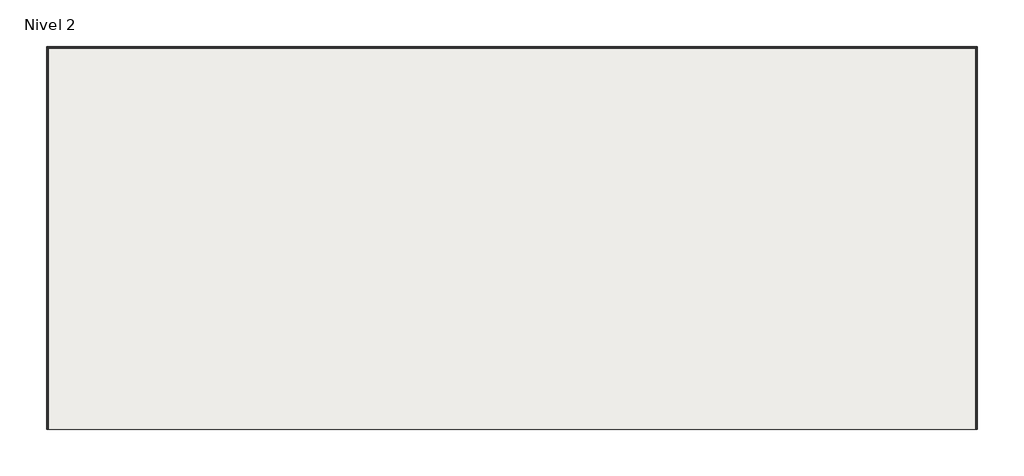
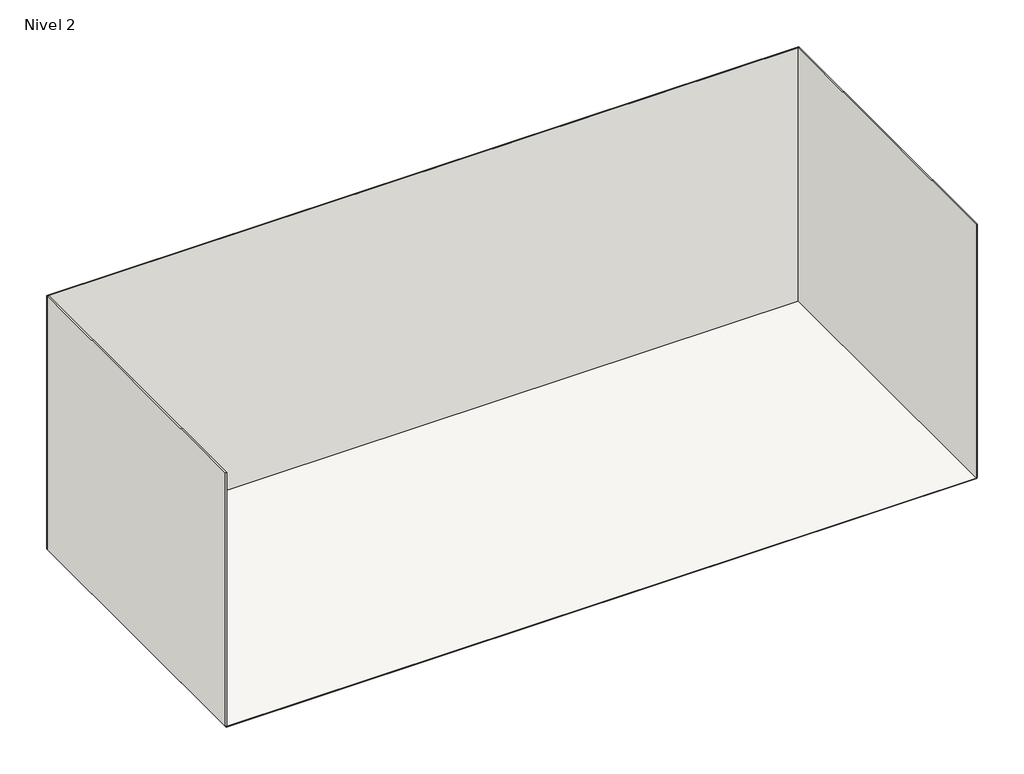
# One storey: 3 walls, 1 slab.
"""IFC4 building model written with IfcOpenShell, lengths in millimetres."""

from ifc_helpers import new_model, si_unit, frame, origin, place, context, project, spatial, polyline, outline, extrude, faceted_brep, element, save

model = new_model("IFC4")

# Units and contexts
model_context = context("Model", 3, world=origin())
ifc_project = project(units=[si_unit("LENGTHUNIT", "METRE", prefix="MILLI")], contexts=[model_context])

# Site, building, storey
site = spatial("IfcSite", under=ifc_project)
building = spatial("IfcBuilding", under=site)
storey = spatial("IfcBuildingStorey", under=building, Name="Nivel 2", Elevation=4000.0)

# Slab
placement = place(None, origin())
element("IfcSlab", 1, ObjectType="Genérico 150 mm", at=placement, inside=storey, context=model_context, shape_type="SweptSolid", body=[
    extrude(outline(polyline([(73179.5577631, 8648.4136988), (73179.5577631, -37451.5863012), (-38820.4422369, -37451.5863012), (-38820.4422369, 8648.4136988), (73179.5577631, 8648.4136988)])), frame((0.0, 0.0, 3850.0), z_axis=(0.0, 0.0, 1.0), x_axis=(1.0, 0.0, 0.0)), (0.0, 0.0, 1.0), 150.0),
])

# Walls
element("IfcWall", 2, ObjectType="Genérico - 200 mm", at=placement, inside=storey, context=model_context, shape_type="Brep", body=[
    faceted_brep([(73279.5577631, 8748.4136988, 4000.0), (-38920.4422369, 8748.4136988, 4000.0), (-38920.4422369, 8748.4136988, 44000.0), (73279.5577631, 8748.4136988, 44000.0), (73279.5577631, 8548.4136988, 4000.0), (73279.5577631, 8548.4136988, 44000.0), (73079.5577631, 8548.4136988, 44000.0), (-38720.4422369, 8548.4136988, 44000.0), (-38920.4422369, 8548.4136988, 44000.0), (-38920.4422369, 8548.4136988, 4000.0), (-38720.4422369, 8548.4136988, 4000.0), (73079.5577631, 8548.4136988, 4000.0)], [[[0, 1, 2, 3]], [[4, 5, 6, 7, 8, 9, 10, 11]], [[1, 0, 4, 11, 10, 9]], [[3, 2, 8, 7, 6, 5]], [[0, 3, 5, 4]], [[2, 1, 9, 8]]]),
])
element("IfcWall", 3, ObjectType="Genérico - 200 mm", at=placement, inside=storey, context=model_context, shape_type="SweptSolid", body=[
    extrude(outline(polyline([(73079.5577631, -37451.5863012), (73079.5577631, 8548.4136988), (73279.5577631, 8548.4136988), (73279.5577631, -37451.5863012), (73079.5577631, -37451.5863012)])), frame((0.0, 0.0, 4000.0), z_axis=(0.0, 0.0, 1.0), x_axis=(1.0, 0.0, 0.0)), (0.0, 0.0, 1.0), 40000.0),
])
element("IfcWall", 4, ObjectType="Genérico - 200 mm", at=placement, inside=storey, context=model_context, shape_type="SweptSolid", body=[
    extrude(outline(polyline([(-38920.4422369, -37451.5863012), (-38920.4422369, 8548.4136988), (-38720.4422369, 8548.4136988), (-38720.4422369, -37451.5863012), (-38920.4422369, -37451.5863012)])), frame((0.0, 0.0, 4000.0), z_axis=(0.0, 0.0, 1.0), x_axis=(1.0, 0.0, 0.0)), (0.0, 0.0, 1.0), 40000.0),
])

save(model, "model.ifc")
